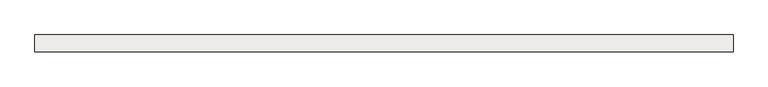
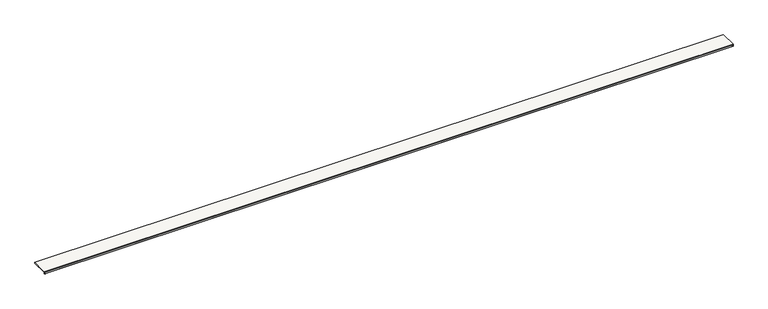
"""IFC4 building model written with IfcOpenShell, lengths in millimetres: slab geometry, ROSA GRES_L62 : Pieza L62_Tao_Beige_Anti-Slip."""

from ifc_helpers import new_model, si_unit, point, frame, frame_2d, origin, place, context, project, spatial, polyline, circle_curve, trimmed, segment, composite_curve, outline, extrude, source, transform, mapped, element, save


def slab_2759e49a(model_context):
    return source(origin(), model_context, "Body", "SweptSolid", [
        extrude(outline(composite_curve([segment(polyline([(12.1001991, -37.0), (9.4054777, -37.0)]), True, "CONTINUOUS"), segment(trimmed(circle_curve(frame_2d((7.4142134, -37.0)), 1.9912643), [point((9.4054777, -37.0))], [point((5.422949, -37.0))], True, "CARTESIAN"), True, "CONTINUOUS"), segment(polyline([(5.422949, -37.0), (2.5, -37.0)]), True, "CONTINUOUS"), segment(trimmed(circle_curve(frame_2d((2.5, -34.5)), 2.5), [point((2.5, -37.0))], [point((0.0, -34.5))], False, "CARTESIAN"), True, "CONTINUOUS"), segment(polyline([(0.0, -34.5), (0.0, -2.5), (2.5, 0.0), (315.5, 0.0), (317.0, -2.5), (317.0, -12.4648352)]), True, "CONTINUOUS"), segment(trimmed(circle_curve(frame_2d((315.5234432, -12.4648352)), 1.4765568), [point((317.0, -12.4648352))], [point((315.5234432, -13.9413919))], False, "CARTESIAN"), True, "CONTINUOUS"), segment(polyline([(315.5234432, -13.9413919), (16.6422322, -13.9413919)]), True, "CONTINUOUS"), segment(trimmed(circle_curve(frame_2d((16.6422322, -16.5836242)), 2.6422322), [point((16.6422322, -13.9413919))], [point((14.0, -16.5836242))], True, "CARTESIAN"), True, "CONTINUOUS"), segment(polyline([(14.0, -16.5836242), (14.0, -35.1001991)]), True, "CONTINUOUS"), segment(trimmed(circle_curve(frame_2d((12.1001991, -35.1001991)), 1.8998009), [point((14.0, -35.1001991))], [point((12.1001991, -37.0))], False, "CARTESIAN"), True, "CONTINUOUS")], self_intersect=False)), frame((0.0, 0.0, 0.0), z_axis=(1.0, 0.0, 0.0), x_axis=(0.0, 1.0, 0.0)), (0.0, 0.0, 1.0), 13060.0),
    ])


if __name__ == "__main__":
    model = new_model("IFC4")
    model_context = context("Model", 3, world=origin())
    ifc_project = project(units=[si_unit("LENGTHUNIT", "METRE", prefix="MILLI")], contexts=[model_context])
    site = spatial("IfcSite", under=ifc_project)
    building = spatial("IfcBuilding", under=site)
    placement = place(None, origin())
    slab_shape = slab_2759e49a(model_context)
    element("IfcSlab", 1, ObjectType="ROSA GRES_L62 : Pieza L62_Tao_Beige_Anti-Slip", at=placement, inside=building, context=model_context, shape_type="MappedRepresentation", body=[
        mapped(slab_shape, transform((0.0, 0.0, 0.0), x_axis=(1.0, 0.0, 0.0), y_axis=(0.0, 1.0, 0.0), z_axis=(0.0, 0.0, 1.0))),
    ])
    save(model, "model.ifc")
